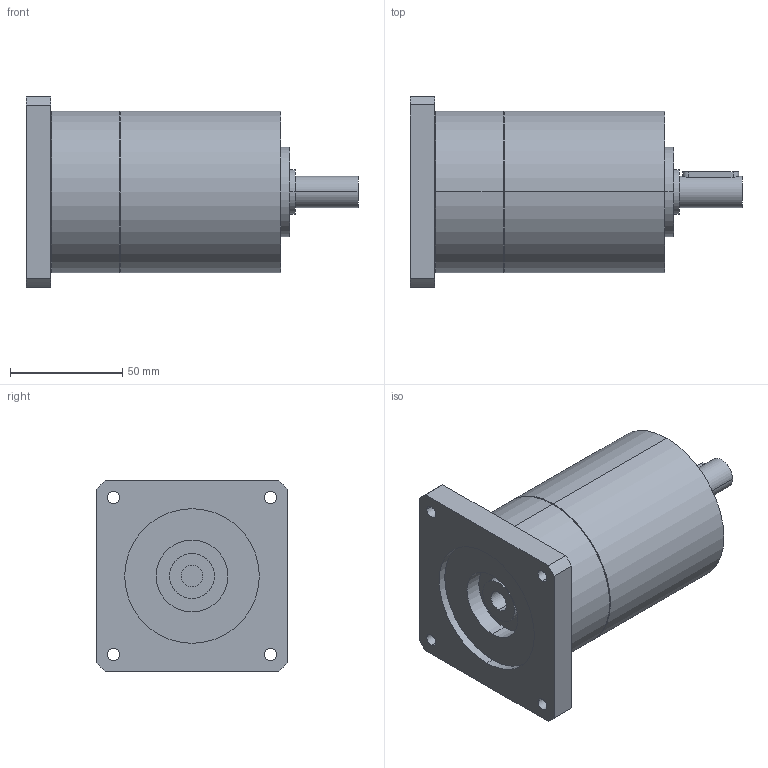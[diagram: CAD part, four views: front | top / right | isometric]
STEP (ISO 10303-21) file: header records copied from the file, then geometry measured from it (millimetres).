
FILE_DESCRIPTION(('CoCreate Modeling STEP Export'),'2;1');
FILE_NAME('GPT75_ig-9-12-16-20-25-28-35-40-50-70-100_14_B14T_9.52_P33.stp','2014-08-27T13:26:53',(''),(''),'CoCreate Modeling STEP processor for AP214 (Solid Model)','CoCreate Modeling 16.00C 25-Feb-2009 (C) Parametric Technology GmbH','');
FILE_SCHEMA(('AUTOMOTIVE_DESIGN { 1 0 10303 214 1 1 1 1 }'));
Length unit declared in the file: millimetre
Products named in the file (2): GPT75_ig-9-12-16-20-25-28-35-40-50-70-100_14_B14T_9.52_P33
Assembly tree (1 placements, depth 2):
  GPT75_ig-9-12-16-20-25-28-35-40-50-70-100_14_B14T_9.52_P33
    GPT75_ig-9-12-16-20-25-28-35-40-50-70-100_14_B14T_9.52_P33
Bounding box: 148 x 85 x 85 mm (x, y, z)
Volume: 487651.2 mm3; surface area: 47538.7 mm2
Topology: 1 solids, 1 shells, 69 faces, 166 edges, 113 vertices
Faces by surface type: cylinder 42, plane 23, cone 4
Entity records: 2161 total; most frequent: CARTESIAN_POINT 664, ORIENTED_EDGE 332, DIRECTION 262, EDGE_CURVE 166, VERTEX_POINT 113, AXIS2_PLACEMENT_3D 99, EDGE_LOOP 91, FACE_OUTER_BOUND 69
